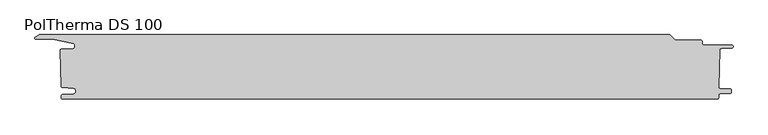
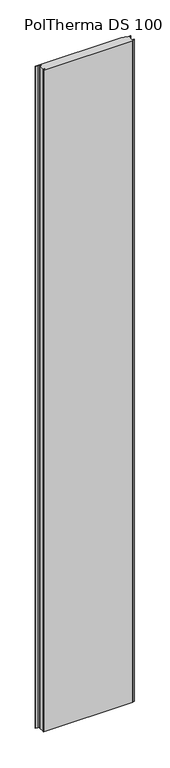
"""IFC4 building model written with IfcOpenShell, lengths in millimetres: plate geometry, Europanels_Poltherma DS_Vt : PolTherma DS 100."""

from ifc_helpers import new_model, si_unit, frame, origin, place, context, project, spatial, polyline, circle_curve, source, transform, mapped, element, save
from ifc_brep_helpers import plane_surface, cylinder_surface, revolved_surface, advanced_brep


def poltherma_ds_100_d9578bee(model_context):
    return source(origin(), model_context, "Body", "AdvancedBrep", [
        advanced_brep(
        [(493.5403652, 50.0, 8000.0), (-486.8580735, 50.0, 8000.0), (-492.5374515, 46.7337298, 8000.0), (-491.5403652, 43.0, 8000.0), (-466.3990445, 43.0, 8000.0), (-433.360119, 36.5910205, 8000.0), (-431.7144766, 34.241537, 8000.0), (-431.7144766, 30.834547, 8000.0), (-434.0363992, 28.3408974, 8000.0), (-451.8103891, 27.6811293, 8000.0), (-454.2176533, 25.1828499, 8000.0), (-452.7176533, -30.600093, 8000.0), (-451.1540445, -32.3401385, 8000.0), (-432.8949489, -33.3927633, 8000.0), (-430.2144766, -36.3756985, 8000.0), (-430.2144766, -39.3243673, 8000.0), (-432.9087496, -42.3087485, 8000.0), (-450.9214713, -43.283254, 8000.0), (-452.7176533, -45.2728415, 8000.0), (-452.7176533, -48.0, 8000.0), (-450.7176533, -50.0, 8000.0), (567.284556, -50.0, 8000.0), (569.284556, -48.0, 8000.0), (569.284556, -44.2387891, 8000.0), (571.1551788, -42.2429781, 8000.0), (587.4139331, -41.1890147, 8000.0), (589.284556, -39.1932037, 8000.0), (589.284556, -36.4439626, 8000.0), (587.3739391, -34.4459609, 8000.0), (571.1951728, -33.7221833, 8000.0), (569.2845579, -31.7214107, 8000.0), (570.7879082, 26.3196392, 8000.0), (573.0928147, 28.6828547, 8000.0), (589.6221028, 29.3477551, 8000.0), (591.7906338, 31.6046042, 8000.0), (589.5384636, 33.9737327, 8000.0), (546.284556, 34.0, 8000.0), (543.784556, 36.5, 8000.0), (543.784556, 39.5, 8000.0), (541.284556, 42.0, 8000.0), (502.0306815, 42.0, 8000.0), (493.5403652, 50.0, 0.0), (502.0306815, 42.0, 0.0), (541.284556, 42.0, 0.0), (543.784556, 39.5, 0.0), (543.784556, 36.5, 0.0), (546.284556, 34.0, 0.0), (589.534556, 34.0, 0.0), (591.7906338, 31.6046042, 0.0), (589.6221028, 29.3477551, 0.0), (573.0928147, 28.6828547, 0.0), (570.7879082, 26.3196392, 0.0), (569.2845579, -31.7214107, 0.0), (571.1951728, -33.7221833, 0.0), (587.3739391, -34.4459609, 0.0), (589.284556, -36.4439626, 0.0), (589.284556, -39.1932037, 0.0), (587.4139331, -41.1890147, 0.0), (571.1551788, -42.2429781, 0.0), (569.284556, -44.2387891, 0.0), (569.284556, -48.0, 0.0), (567.284556, -50.0, 0.0), (-450.7176533, -50.0, 0.0), (-452.7176533, -48.0, 0.0), (-452.7176533, -45.2728415, 0.0), (-450.9214713, -43.283254, 0.0), (-432.9087496, -42.3087485, 0.0), (-430.2144766, -39.3243673, 0.0), (-430.2144766, -36.3756985, 0.0), (-432.8949489, -33.3927633, 0.0), (-451.1540445, -32.3401385, 0.0), (-452.7176533, -30.600093, 0.0), (-454.2176533, 25.1828499, 0.0), (-451.8103891, 27.6811293, 0.0), (-434.0363992, 28.3408974, 0.0), (-431.7144766, 30.834547, 0.0), (-431.7144766, 34.241537, 0.0), (-433.360119, 36.5910205, 0.0), (-466.3990445, 43.0, 0.0), (-491.5403652, 43.0, 0.0), (-492.5374515, 46.7337298, 0.0), (-486.8580735, 50.0, 0.0)],
        [
            (0, 1),
            (1, 2),
            (2, 3, circle_curve(frame((-491.5403652, 45.0, 8000.0), z_axis=(0.0, 0.0, 1.0), x_axis=(1.0, 0.0, 0.0)), 2.0)),
            (3, 4),
            (4, 5),
            (5, 6, circle_curve(frame((-434.2144766, 34.241537, 8000.0), z_axis=(0.0, 0.0, -1.0), x_axis=(1.0, 0.0, 0.0)), 2.5)),
            (6, 7),
            (7, 8, circle_curve(frame((-434.2144766, 30.834547, 8000.0), z_axis=(0.0, 0.0, -1.0), x_axis=(1.0, 0.0, 0.0)), 2.5)),
            (8, 9),
            (9, 10, circle_curve(frame((-451.7176533, 25.1828499, 8000.0), z_axis=(0.0, 0.0, 1.0), x_axis=(1.0, 0.0, 0.0)), 2.5)),
            (10, 11),
            (11, 12, circle_curve(frame((-450.9676533, -30.600093, 8000.0), z_axis=(0.0, 0.0, 1.0), x_axis=(1.0, 0.0, 0.0)), 1.75)),
            (12, 13),
            (13, 14, circle_curve(frame((-433.2144766, -36.3756985, 8000.0), z_axis=(0.0, 0.0, -1.0), x_axis=(1.0, 0.0, 0.0)), 3.0)),
            (14, 15),
            (15, 16, circle_curve(frame((-433.2144766, -39.3243673, 8000.0), z_axis=(0.0, 0.0, -1.0), x_axis=(1.0, 0.0, 0.0)), 3.0)),
            (16, 17),
            (17, 18, circle_curve(frame((-450.7176533, -45.2728415, 8000.0), z_axis=(0.0, 0.0, 1.0), x_axis=(1.0, 0.0, 0.0)), 2.0)),
            (18, 19),
            (19, 20, circle_curve(frame((-450.7176533, -48.0, 8000.0), z_axis=(0.0, 0.0, 1.0), x_axis=(1.0, 0.0, 0.0)), 2.0)),
            (20, 21),
            (21, 22, circle_curve(frame((567.284556, -48.0, 8000.0), z_axis=(0.0, 0.0, 1.0), x_axis=(1.0, 0.0, 0.0)), 2.0)),
            (22, 23),
            (23, 24, circle_curve(frame((571.284556, -44.2387891, 8000.0), z_axis=(0.0, 0.0, -1.0), x_axis=(1.0, 0.0, 0.0)), 2.0)),
            (24, 25),
            (25, 26, circle_curve(frame((587.284556, -39.1932037, 8000.0), z_axis=(0.0, 0.0, 1.0), x_axis=(1.0, 0.0, 0.0)), 2.0)),
            (26, 27),
            (27, 28, circle_curve(frame((587.284556, -36.4439626, 8000.0), z_axis=(0.0, 0.0, 1.0), x_axis=(1.0, 0.0, 0.0)), 2.0)),
            (28, 29),
            (29, 30, circle_curve(frame((571.284556, -31.7241817, 8000.0), z_axis=(0.0, 0.0, -1.0), x_axis=(1.0, 0.0, 0.0)), 2.0)),
            (30, 31),
            (31, 32, circle_curve(frame((573.284556, 26.1902185, 8000.0), z_axis=(0.0, 0.0, -1.0), x_axis=(1.0, 0.0, 0.0)), 2.5)),
            (32, 33),
            (33, 34, circle_curve(frame((589.5319862, 31.6046042, 8000.0), z_axis=(0.0, 0.0, 1.0), x_axis=(1.0, 0.0, 0.0)), 2.2586476)),
            (34, 35, circle_curve(frame((589.5384636, 31.7186756, 8000.0), z_axis=(0.0, 0.0, 1.0), x_axis=(1.0, 0.0, 0.0)), 2.2550571)),
            (35, 36),
            (36, 37, circle_curve(frame((546.284556, 36.5, 8000.0), z_axis=(0.0, 0.0, -1.0), x_axis=(1.0, 0.0, 0.0)), 2.5)),
            (37, 38),
            (38, 39, circle_curve(frame((541.284556, 39.5, 8000.0), z_axis=(0.0, 0.0, 1.0), x_axis=(1.0, 0.0, 0.0)), 2.5)),
            (39, 40),
            (40, 0),
            (41, 42),
            (42, 43),
            (43, 44, circle_curve(frame((541.284556, 39.5, 0.0), z_axis=(0.0, 0.0, -1.0), x_axis=(1.0, 0.0, 0.0)), 2.5)),
            (44, 45),
            (45, 46, circle_curve(frame((546.284556, 36.5, 0.0), z_axis=(0.0, 0.0, 1.0), x_axis=(1.0, 0.0, 0.0)), 2.5)),
            (46, 47),
            (47, 48, circle_curve(frame((589.5384636, 31.7186756, 0.0), z_axis=(0.0, 0.0, -1.0), x_axis=(1.0, 0.0, 0.0)), 2.2550571)),
            (48, 49, circle_curve(frame((589.5319862, 31.6046042, 0.0), z_axis=(0.0, 0.0, -1.0), x_axis=(1.0, 0.0, 0.0)), 2.2586476)),
            (49, 50),
            (50, 51, circle_curve(frame((573.284556, 26.1902185, 0.0), z_axis=(0.0, 0.0, 1.0), x_axis=(1.0, 0.0, 0.0)), 2.5)),
            (51, 52),
            (52, 53, circle_curve(frame((571.284556, -31.7241817, 0.0), z_axis=(0.0, 0.0, 1.0), x_axis=(1.0, 0.0, 0.0)), 2.0)),
            (53, 54),
            (54, 55, circle_curve(frame((587.284556, -36.4439626, 0.0), z_axis=(0.0, 0.0, -1.0), x_axis=(1.0, 0.0, 0.0)), 2.0)),
            (55, 56),
            (56, 57, circle_curve(frame((587.284556, -39.1932037, 0.0), z_axis=(0.0, 0.0, -1.0), x_axis=(1.0, 0.0, 0.0)), 2.0)),
            (57, 58),
            (58, 59, circle_curve(frame((571.284556, -44.2387891, 0.0), z_axis=(0.0, 0.0, 1.0), x_axis=(1.0, 0.0, 0.0)), 2.0)),
            (59, 60),
            (60, 61, circle_curve(frame((567.284556, -48.0, 0.0), z_axis=(0.0, 0.0, -1.0), x_axis=(1.0, 0.0, 0.0)), 2.0)),
            (61, 62),
            (62, 63, circle_curve(frame((-450.7176533, -48.0, 0.0), z_axis=(0.0, 0.0, -1.0), x_axis=(1.0, 0.0, 0.0)), 2.0)),
            (63, 64),
            (64, 65, circle_curve(frame((-450.7176533, -45.2728415, 0.0), z_axis=(0.0, 0.0, -1.0), x_axis=(1.0, 0.0, 0.0)), 2.0)),
            (65, 66),
            (66, 67, circle_curve(frame((-433.2144766, -39.3243673, 0.0), z_axis=(0.0, 0.0, 1.0), x_axis=(1.0, 0.0, 0.0)), 3.0)),
            (67, 68),
            (68, 69, circle_curve(frame((-433.2144766, -36.3756985, 0.0), z_axis=(0.0, 0.0, 1.0), x_axis=(1.0, 0.0, 0.0)), 3.0)),
            (69, 70),
            (70, 71, circle_curve(frame((-450.9676533, -30.600093, 0.0), z_axis=(0.0, 0.0, -1.0), x_axis=(1.0, 0.0, 0.0)), 1.75)),
            (71, 72),
            (72, 73, circle_curve(frame((-451.7176533, 25.1828499, 0.0), z_axis=(0.0, 0.0, -1.0), x_axis=(1.0, 0.0, 0.0)), 2.5)),
            (73, 74),
            (74, 75, circle_curve(frame((-434.2144766, 30.834547, 0.0), z_axis=(0.0, 0.0, 1.0), x_axis=(1.0, 0.0, 0.0)), 2.5)),
            (75, 76),
            (76, 77, circle_curve(frame((-434.2144766, 34.241537, 0.0), z_axis=(0.0, 0.0, 1.0), x_axis=(1.0, 0.0, 0.0)), 2.5)),
            (77, 78),
            (78, 79),
            (79, 80, circle_curve(frame((-491.5403652, 45.0, 0.0), z_axis=(0.0, 0.0, -1.0), x_axis=(1.0, 0.0, 0.0)), 2.0)),
            (80, 81),
            (81, 41),
            (0, 41),
            (81, 1),
            (20, 62),
            (61, 21),
            (80, 2),
            (79, 3),
            (78, 4),
            (77, 5),
            (76, 6),
            (75, 7),
            (74, 8),
            (73, 9),
            (72, 10),
            (71, 11),
            (70, 12),
            (69, 13),
            (68, 14),
            (67, 15),
            (66, 16),
            (65, 17),
            (64, 18),
            (63, 19),
            (60, 22),
            (59, 23),
            (58, 24),
            (57, 25),
            (56, 26),
            (55, 27),
            (54, 28),
            (53, 29),
            (52, 30),
            (51, 31),
            (50, 32),
            (49, 33),
            (48, 34),
            (47, 35),
            (46, 36),
            (45, 37),
            (44, 38),
            (43, 39),
            (42, 40),
        ],
        [
            plane_surface(frame((-486.8580735, 50.0, 8000.0), z_axis=(0.0, 0.0, 1.0), x_axis=(-1.0, 0.0, 0.0))),
            plane_surface(frame((-486.8580735, 50.0, 0.0), z_axis=(0.0, 0.0, -1.0), x_axis=(1.0, 0.0, 0.0))),
            plane_surface(frame((493.5403652, 50.0, 8000.0), z_axis=(0.0, 1.0, 0.0), x_axis=(0.0, 0.0, -1.0))),
            plane_surface(frame((-450.7176533, -50.0, 8000.0), z_axis=(0.0, -1.0, 0.0), x_axis=(0.0, 0.0, -1.0))),
            plane_surface(frame((-486.8580735, 50.0, 8000.0), z_axis=(-0.4985431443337, 0.866864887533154, 0.0), x_axis=(0.0, 0.0, -1.0))),
            cylinder_surface(frame((-491.5403652, 45.0, 0.0), z_axis=(0.0, 0.0, 1.0), x_axis=(1.0, 0.0, 0.0)), 2.0),
            plane_surface(frame((-491.5403652, 43.0, 8000.0), z_axis=(0.0, -1.0, 0.0), x_axis=(0.0, 0.0, -1.0))),
            plane_surface(frame((-466.3990445, 43.0, 8000.0), z_axis=(-0.19043284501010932, -0.9817002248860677, 0.0), x_axis=(0.0, 0.0, -1.0))),
            revolved_surface(polyline([(-431.7144766, 34.241537, 0.0), (-431.7144766, 34.241537, 8000.0)]), (-434.2144766, 34.241537, 0.0), (0.0, 0.0, -1.0)),
            plane_surface(frame((-431.7144766, 34.241537, 8000.0), z_axis=(-1.0, 0.0, 0.0), x_axis=(0.0, 0.0, -1.0))),
            revolved_surface(polyline([(-431.7144766, 30.834547, 0.0), (-431.7144766, 30.834547, 8000.0)]), (-434.2144766, 30.834547, 0.0), (0.0, 0.0, -1.0)),
            plane_surface(frame((-434.0363992, 28.3408974, 8000.0), z_axis=(-0.037094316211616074, 0.9993117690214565, 0.0), x_axis=(0.0, 0.0, -1.0))),
            cylinder_surface(frame((-451.7176533, 25.1828499, 0.0), z_axis=(0.0, 0.0, 1.0), x_axis=(1.0, 0.0, 0.0)), 2.5),
            plane_surface(frame((-454.2176533, 25.1828499, 8000.0), z_axis=(-0.9996386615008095, -0.02688022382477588, 0.0), x_axis=(0.0, 0.0, -1.0))),
            cylinder_surface(frame((-450.9676533, -30.600093, 0.0), z_axis=(0.0, 0.0, 1.0), x_axis=(1.0, 0.0, 0.0)), 1.75),
            plane_surface(frame((-451.1540445, -32.3401385, 8000.0), z_axis=(-0.057553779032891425, -0.9983424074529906, 0.0), x_axis=(0.0, 0.0, -1.0))),
            revolved_surface(polyline([(-430.2144766, -36.3756985, 0.0), (-430.2144766, -36.3756985, 8000.0)]), (-433.2144766, -36.3756985, 0.0), (0.0, 0.0, -1.0)),
            plane_surface(frame((-430.2144766, -36.3756985, 8000.0), z_axis=(-1.0, 0.0, 0.0), x_axis=(0.0, 0.0, -1.0))),
            revolved_surface(polyline([(-430.2144766, -39.3243673, 0.0), (-430.2144766, -39.3243673, 8000.0)]), (-433.2144766, -39.3243673, 0.0), (0.0, 0.0, -1.0)),
            plane_surface(frame((-432.9087496, -42.3087485, 8000.0), z_axis=(-0.054021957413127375, 0.9985397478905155, 0.0), x_axis=(0.0, 0.0, -1.0))),
            cylinder_surface(frame((-450.7176533, -45.2728415, 0.0), z_axis=(0.0, 0.0, 1.0), x_axis=(1.0, 0.0, 0.0)), 2.0),
            plane_surface(frame((-452.7176533, -45.2728415, 8000.0), z_axis=(-1.0, 0.0, 0.0), x_axis=(0.0, 0.0, -1.0))),
            cylinder_surface(frame((-450.7176533, -48.0, 0.0), z_axis=(0.0, 0.0, 1.0), x_axis=(1.0, 0.0, 0.0)), 2.0),
            cylinder_surface(frame((567.284556, -48.0, 0.0), z_axis=(0.0, 0.0, 1.0), x_axis=(1.0, 0.0, 0.0)), 2.0),
            plane_surface(frame((569.284556, -48.0, 8000.0), z_axis=(1.0, 0.0, 0.0), x_axis=(0.0, 0.0, -1.0))),
            revolved_surface(polyline([(573.284556, -44.2387891, 0.0), (573.284556, -44.2387891, 8000.0)]), (571.284556, -44.2387891, 0.0), (0.0, 0.0, -1.0)),
            plane_surface(frame((571.1551788, -42.2429781, 8000.0), z_axis=(0.0646885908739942, -0.9979054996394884, 0.0), x_axis=(0.0, 0.0, -1.0))),
            cylinder_surface(frame((587.284556, -39.1932037, 0.0), z_axis=(0.0, 0.0, 1.0), x_axis=(1.0, 0.0, 0.0)), 2.0),
            plane_surface(frame((589.284556, -39.1932037, 8000.0), z_axis=(1.0, 0.0, 0.0), x_axis=(0.0, 0.0, -1.0))),
            cylinder_surface(frame((587.284556, -36.4439626, 0.0), z_axis=(0.0, 0.0, 1.0), x_axis=(1.0, 0.0, 0.0)), 2.0),
            plane_surface(frame((587.3739391, -34.4459609, 8000.0), z_axis=(0.044691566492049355, 0.9990008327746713, 0.0), x_axis=(0.0, 0.0, -1.0))),
            revolved_surface(polyline([(573.284556, -31.7241817, 0.0), (573.284556, -31.7241817, 8000.0)]), (571.284556, -31.7241817, 0.0), (0.0, 0.0, -1.0)),
            plane_surface(frame((569.2845579, -31.7214107, 8000.0), z_axis=(0.9996647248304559, -0.025892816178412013, 0.0), x_axis=(0.0, 0.0, -1.0))),
            revolved_surface(polyline([(575.784556, 26.1902185, 0.0), (575.784556, 26.1902185, 8000.0)]), (573.284556, 26.1902185, 0.0), (0.0, 0.0, -1.0)),
            plane_surface(frame((573.0928147, 28.6828547, 8000.0), z_axis=(0.04019308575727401, -0.9991919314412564, 0.0), x_axis=(0.0, 0.0, -1.0))),
            cylinder_surface(frame((589.5319862, 31.6046042, 0.0), z_axis=(0.0, 0.0, 1.0), x_axis=(1.0, 0.0, 0.0)), 2.2586476),
            cylinder_surface(frame((589.5384636, 31.7186756, 0.0), z_axis=(0.0, 0.0, 1.0), x_axis=(1.0, 0.0, 0.0)), 2.2550571),
            plane_surface(frame((589.534556, 34.0, 8000.0), z_axis=(0.0, 1.0, 0.0), x_axis=(0.0, 0.0, -1.0))),
            revolved_surface(polyline([(548.784556, 36.5, 0.0), (548.784556, 36.5, 8000.0)]), (546.284556, 36.5, 0.0), (0.0, 0.0, -1.0)),
            plane_surface(frame((543.784556, 36.5, 8000.0), z_axis=(1.0, 0.0, 0.0), x_axis=(0.0, 0.0, -1.0))),
            cylinder_surface(frame((541.284556, 39.5, 0.0), z_axis=(0.0, 0.0, 1.0), x_axis=(1.0, 0.0, 0.0)), 2.5),
            plane_surface(frame((541.284556, 42.0, 8000.0), z_axis=(0.0, 1.0, 0.0), x_axis=(0.0, 0.0, -1.0))),
            plane_surface(frame((502.0306815, 42.0, 8000.0), z_axis=(0.6857788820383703, 0.7278099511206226, 0.0), x_axis=(0.0, 0.0, -1.0))),
        ],
        [
            (0, [[1, 2, 3, 4, 5, 6, 7, 8, 9, 10, 11, 12, 13, 14, 15, 16, 17, 18, 19, 20, 21, 22, 23, 24, 25, 26, 27, 28, 29, 30, 31, 32, 33, 34, 35, 36, 37, 38, 39, 40, 41]]),
            (1, [[42, 43, 44, 45, 46, 47, 48, 49, 50, 51, 52, 53, 54, 55, 56, 57, 58, 59, 60, 61, 62, 63, 64, 65, 66, 67, 68, 69, 70, 71, 72, 73, 74, 75, 76, 77, 78, 79, 80, 81, 82]]),
            (2, [[-1, 83, -82, 84]]),
            (3, [[-21, 85, -62, 86]]),
            (4, [[-2, -84, -81, 87]]),
            (5, [[-3, -87, -80, 88]]),
            (6, [[-4, -88, -79, 89]]),
            (7, [[-5, -89, -78, 90]]),
            (8, [[-6, -90, -77, 91]]),
            (9, [[-7, -91, -76, 92]]),
            (10, [[-8, -92, -75, 93]]),
            (11, [[-9, -93, -74, 94]]),
            (12, [[-10, -94, -73, 95]]),
            (13, [[-11, -95, -72, 96]]),
            (14, [[-12, -96, -71, 97]]),
            (15, [[-13, -97, -70, 98]]),
            (16, [[-14, -98, -69, 99]]),
            (17, [[-15, -99, -68, 100]]),
            (18, [[-16, -100, -67, 101]]),
            (19, [[-17, -101, -66, 102]]),
            (20, [[-18, -102, -65, 103]]),
            (21, [[-19, -103, -64, 104]]),
            (22, [[-20, -104, -63, -85]]),
            (23, [[-22, -86, -61, 105]]),
            (24, [[-23, -105, -60, 106]]),
            (25, [[-24, -106, -59, 107]]),
            (26, [[-25, -107, -58, 108]]),
            (27, [[-26, -108, -57, 109]]),
            (28, [[-27, -109, -56, 110]]),
            (29, [[-28, -110, -55, 111]]),
            (30, [[-29, -111, -54, 112]]),
            (31, [[-30, -112, -53, 113]]),
            (32, [[-31, -113, -52, 114]]),
            (33, [[-32, -114, -51, 115]]),
            (34, [[-33, -115, -50, 116]]),
            (35, [[-34, -116, -49, 117]]),
            (36, [[-35, -117, -48, 118]]),
            (37, [[-36, -118, -47, 119]]),
            (38, [[-37, -119, -46, 120]]),
            (39, [[-38, -120, -45, 121]]),
            (40, [[-39, -121, -44, 122]]),
            (41, [[-40, -122, -43, 123]]),
            (42, [[-41, -123, -42, -83]]),
        ],
    ),
    ])


if __name__ == "__main__":
    model = new_model("IFC4")
    model_context = context("Model", 3, world=origin())
    ifc_project = project(units=[si_unit("LENGTHUNIT", "METRE", prefix="MILLI")], contexts=[model_context])
    site = spatial("IfcSite", under=ifc_project)
    building = spatial("IfcBuilding", under=site)
    placement = place(None, origin())
    poltherma_ds_100_shape = poltherma_ds_100_d9578bee(model_context)
    element("IfcPlate", 1, ObjectType="Europanels_Poltherma DS_Vt : PolTherma DS 100", at=placement, inside=building, context=model_context, shape_type="MappedRepresentation", body=[
        mapped(poltherma_ds_100_shape, transform((0.0, 0.0, 0.0), x_axis=(1.0, 0.0, 0.0), y_axis=(0.0, 1.0, 0.0), z_axis=(0.0, 0.0, 1.0))),
    ])
    save(model, "model.ifc")
